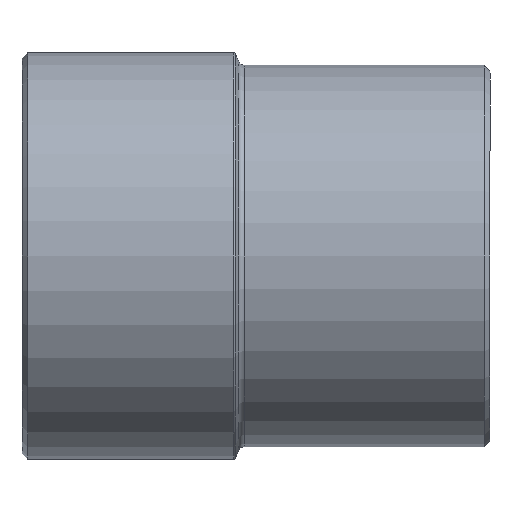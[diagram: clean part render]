
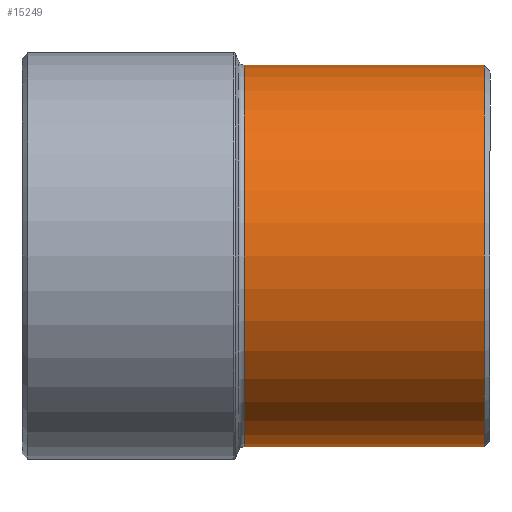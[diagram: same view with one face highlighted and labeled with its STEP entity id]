
A CAD part, front view. The second image highlights one B-rep face of the part: STEP entity #15249.
In plain terms, the highlighted cylindrical face has radius 67.25 mm (diameter 134.5 mm), a partial arc.
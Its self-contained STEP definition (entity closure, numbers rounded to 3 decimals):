
#624 = AXIS2_PLACEMENT_3D ( 'NONE', #22104, #22099, #22106 ) ;
#1647 = EDGE_CURVE ( 'NONE', #17837, #17696, #7386, .T. ) ;
#7386 = CIRCLE ( 'NONE', #7392, 67.25 ) ;
#7392 = AXIS2_PLACEMENT_3D ( 'NONE', #7570, #7571, #7572 ) ;
#7570 = CARTESIAN_POINT ( 'NONE',  ( 84., 0., 0. ) ) ;
#7571 = DIRECTION ( 'NONE',  ( -1., 0., 0. ) ) ;
#7572 = DIRECTION ( 'NONE',  ( 0., 0., 1. ) ) ;
#7948 = ORIENTED_EDGE ( 'NONE', *, *, #15096, .F. ) ;
#7949 = ORIENTED_EDGE ( 'NONE', *, *, #15076, .T. ) ;
#7950 = ORIENTED_EDGE ( 'NONE', *, *, #15098, .T. ) ;
#7951 = ORIENTED_EDGE ( 'NONE', *, *, #1647, .T. ) ;
#14606 = CIRCLE ( 'NONE', #14608, 67.25 ) ;
#14608 = AXIS2_PLACEMENT_3D ( 'NONE', #16749, #16750, #16751 ) ;
#14626 = VECTOR ( 'NONE', #17034, 1000. ) ;
#14630 = VECTOR ( 'NONE', #17038, 1000. ) ;
#15076 = EDGE_CURVE ( 'NONE', #17702, #17691, #14606, .T. ) ;
#15096 = EDGE_CURVE ( 'NONE', #17702, #17696, #17030, .T. ) ;
#15098 = EDGE_CURVE ( 'NONE', #17691, #17837, #17029, .T. ) ;
#15249 = ADVANCED_FACE ( 'NONE', ( #22103 ), #22105, .T. ) ;
#16072 = EDGE_LOOP ( 'NONE', ( #7948, #7949, #7950, #7951 ) ) ;
#16749 = CARTESIAN_POINT ( 'NONE',  ( -0.718, 0., 0. ) ) ;
#16750 = DIRECTION ( 'NONE',  ( 1., 0., 0. ) ) ;
#16751 = DIRECTION ( 'NONE',  ( 0., 0., -1. ) ) ;
#16992 = CARTESIAN_POINT ( 'NONE',  ( 90.267, 0., 67.25 ) ) ;
#17028 = CARTESIAN_POINT ( 'NONE',  ( 90.267, 0., -67.25 ) ) ;
#17029 = LINE ( 'NONE', #17028, #14630 ) ;
#17030 = LINE ( 'NONE', #16992, #14626 ) ;
#17034 = DIRECTION ( 'NONE',  ( 1., 0., 0. ) ) ;
#17038 = DIRECTION ( 'NONE',  ( 1., 0., 0. ) ) ;
#17691 = VERTEX_POINT ( 'NONE', #20626 ) ;
#17696 = VERTEX_POINT ( 'NONE', #20631 ) ;
#17702 = VERTEX_POINT ( 'NONE', #20649 ) ;
#17837 = VERTEX_POINT ( 'NONE', #20783 ) ;
#20626 = CARTESIAN_POINT ( 'NONE',  ( -0.718, 0., -67.25 ) ) ;
#20631 = CARTESIAN_POINT ( 'NONE',  ( 84., 0., 67.25 ) ) ;
#20649 = CARTESIAN_POINT ( 'NONE',  ( -0.718, 0., 67.25 ) ) ;
#20783 = CARTESIAN_POINT ( 'NONE',  ( 84., 0., -67.25 ) ) ;
#22099 = DIRECTION ( 'NONE',  ( 1., 0., 0. ) ) ;
#22103 = FACE_OUTER_BOUND ( 'NONE', #16072, .T. ) ;
#22104 = CARTESIAN_POINT ( 'NONE',  ( 90.267, 0., 0. ) ) ;
#22105 = CYLINDRICAL_SURFACE ( 'NONE', #624, 67.25 ) ;
#22106 = DIRECTION ( 'NONE',  ( 0., 0., -1. ) ) ;
